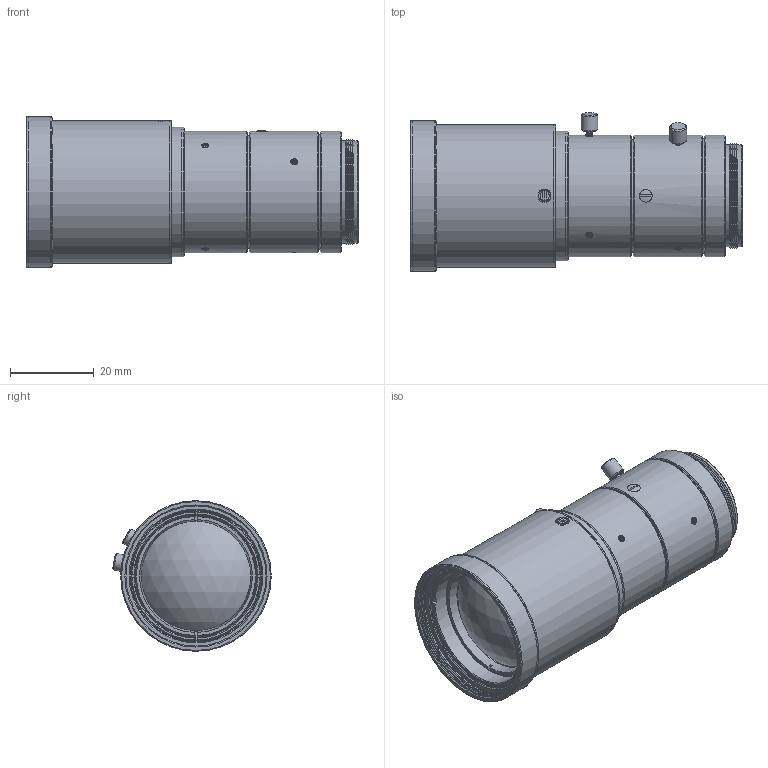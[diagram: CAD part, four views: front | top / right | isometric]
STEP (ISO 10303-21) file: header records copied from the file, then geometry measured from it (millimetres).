
FILE_DESCRIPTION(/* description */ ('Unknown'),/* implementation_level */ '2;1');
FILE_NAME(/* name */ 'M7528-MPW3',/* time_stamp */ '2021-03-21T09:10:57+09:00',/* author */ ('Unknown'),/* organization */ ('Unknown'),/* preprocessor_version */ 'ST-DEVELOPER v16.7',/* originating_system */ 'DEX',/* authorisation */ $);
FILE_SCHEMA (('AUTOMOTIVE_DESIGN {1 0 10303 214 3 1 1}'));
Length unit declared in the file: millimetre
Products named in the file (3): M7528-MPW3 Infinity; M7528-MPW3 Infinity_0; M7528-MPW3 Mechanical Limit_0
Assembly tree (2 placements, depth 2):
  M7528-MPW3 Infinity
    M7528-MPW3 Infinity_0
    M7528-MPW3 Mechanical Limit_0
Bounding box: 79.4 x 37.9 x 36 mm (x, y, z)
Volume: 53238.8 mm3; surface area: 75365.5 mm2
Topology: 32 solids, 32 shells, 1408 faces, 2956 edges, 1720 vertices
Faces by surface type: cone 968, plane 274, cylinder 150, sphere 12, torus 4
Full cylindrical faces by diameter (mm): 1 x4, 1.3 x4, 1.4 x4, 2 x6, 2.1 x4, 3 x6, 4 x4, 9.6 x2, 10.6 x2, 13 x2, 15 x2, 15.5 x2, 15.6 x4, 16.5 x2, 17 x8, 18 x2, 19 x8, 20 x4, 20.3 x2, 20.5 x4, 21.7 x2, 22.5 x6, 22.8 x2, 23.7 x2, 24.3 x10, 24.4 x4, 26 x2, 26.2 x2, 27 x2, 27.5 x6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
Entity records: 32669 total; most frequent: CARTESIAN_POINT 6093, DIRECTION 5862, ORIENTED_EDGE 3928, AXIS2_PLACEMENT_3D 2745, EDGE_LOOP 2534, FACE_BOUND 2534, EDGE_CURVE 1964, VERTEX_POINT 1678
